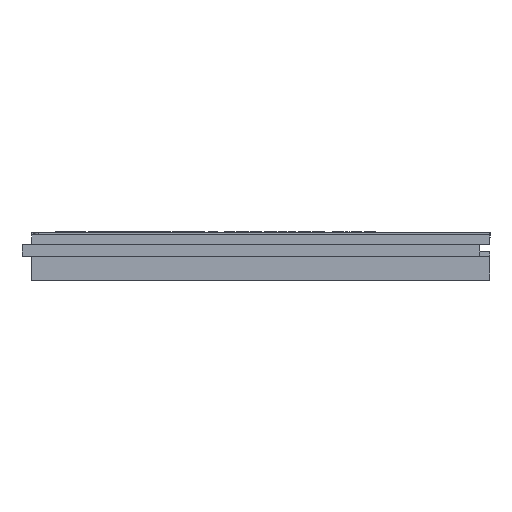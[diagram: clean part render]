
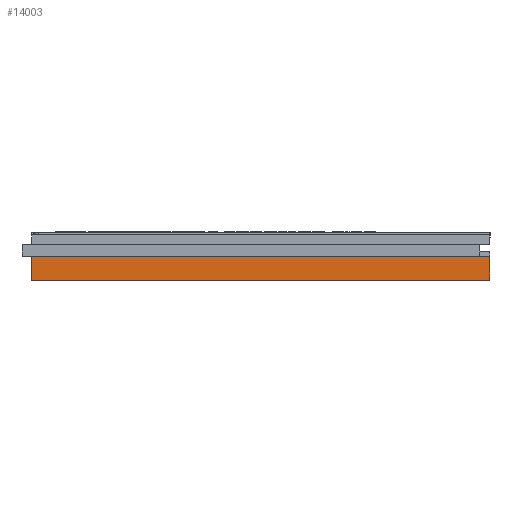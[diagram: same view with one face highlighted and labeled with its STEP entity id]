
A CAD part, left-side view. The second image highlights one B-rep face of the part: STEP entity #14003.
In plain terms, the highlighted planar face has unit normal (-1, 0, 0).
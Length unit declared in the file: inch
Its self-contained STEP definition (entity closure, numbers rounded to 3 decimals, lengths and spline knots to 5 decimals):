
#2821 = CARTESIAN_POINT ( 'NONE',  ( -24., 12., -1.25 ) ) ;
#3003 = ORIENTED_EDGE ( 'NONE', *, *, #31327, .F. ) ;
#3789 = EDGE_CURVE ( 'NONE', #28025, #91892, #99083, .T. ) ;
#6998 = EDGE_CURVE ( 'NONE', #82273, #99484, #77635, .T. ) ;
#8644 = CARTESIAN_POINT ( 'NONE',  ( -24., -12., 0. ) ) ;
#10138 = CARTESIAN_POINT ( 'NONE',  ( -24., -12., 0. ) ) ;
#10990 = CARTESIAN_POINT ( 'NONE',  ( -24., -12., 1.25 ) ) ;
#12856 = CARTESIAN_POINT ( 'NONE',  ( -24., 60.00586, -1.25 ) ) ;
#13029 = VERTEX_POINT ( 'NONE', #37172 ) ;
#14003 = ADVANCED_FACE ( 'NONE', ( #53357 ), #55489, .F. ) ;
#14715 = LINE ( 'NONE', #81501, #101722 ) ;
#16539 = VECTOR ( 'NONE', #57392, 39.37008 ) ;
#21064 = DIRECTION ( 'NONE',  ( 0., -1., 0. ) ) ;
#25762 = DIRECTION ( 'NONE',  ( 0., 0., -1. ) ) ;
#28025 = VERTEX_POINT ( 'NONE', #53020 ) ;
#30332 = DIRECTION ( 'NONE',  ( 0., 0., -1. ) ) ;
#30804 = ORIENTED_EDGE ( 'NONE', *, *, #3789, .T. ) ;
#31327 = EDGE_CURVE ( 'NONE', #82273, #13029, #75624, .T. ) ;
#31899 = EDGE_CURVE ( 'NONE', #91892, #13029, #62663, .T. ) ;
#37172 = CARTESIAN_POINT ( 'NONE',  ( -24., -12., -1.25 ) ) ;
#37985 = DIRECTION ( 'NONE',  ( 1., 0., 0. ) ) ;
#43623 = DIRECTION ( 'NONE',  ( 0., 1., 0. ) ) ;
#49128 = CARTESIAN_POINT ( 'NONE',  ( -24., 12., 1.25 ) ) ;
#50315 = VECTOR ( 'NONE', #43623, 39.37008 ) ;
#50831 = VECTOR ( 'NONE', #25762, 39.37008 ) ;
#53020 = CARTESIAN_POINT ( 'NONE',  ( -24., 12., 0. ) ) ;
#53357 = FACE_OUTER_BOUND ( 'NONE', #95121, .T. ) ;
#55489 = PLANE ( 'NONE',  #84704 ) ;
#57392 = DIRECTION ( 'NONE',  ( 0., 0., -1. ) ) ;
#59618 = VECTOR ( 'NONE', #21064, 39.37008 ) ;
#62663 = LINE ( 'NONE', #12856, #59618 ) ;
#63724 = CARTESIAN_POINT ( 'NONE',  ( -24., -12., 1.25 ) ) ;
#75624 = LINE ( 'NONE', #10990, #50831 ) ;
#77635 = LINE ( 'NONE', #8644, #50315 ) ;
#79731 = ORIENTED_EDGE ( 'NONE', *, *, #6998, .T. ) ;
#81501 = CARTESIAN_POINT ( 'NONE',  ( -24., -12.19887, 0. ) ) ;
#82273 = VERTEX_POINT ( 'NONE', #10138 ) ;
#84704 = AXIS2_PLACEMENT_3D ( 'NONE', #63724, #37985, #30332 ) ;
#84839 = ORIENTED_EDGE ( 'NONE', *, *, #107279, .T. ) ;
#89216 = CARTESIAN_POINT ( 'NONE',  ( -24., -11.47, 0. ) ) ;
#91892 = VERTEX_POINT ( 'NONE', #2821 ) ;
#95121 = EDGE_LOOP ( 'NONE', ( #79731, #84839, #30804, #107591, #3003 ) ) ;
#99083 = LINE ( 'NONE', #49128, #16539 ) ;
#99484 = VERTEX_POINT ( 'NONE', #89216 ) ;
#101722 = VECTOR ( 'NONE', #107282, 39.37008 ) ;
#107279 = EDGE_CURVE ( 'NONE', #99484, #28025, #14715, .T. ) ;
#107282 = DIRECTION ( 'NONE',  ( 0., 1., 0. ) ) ;
#107591 = ORIENTED_EDGE ( 'NONE', *, *, #31899, .T. ) ;
